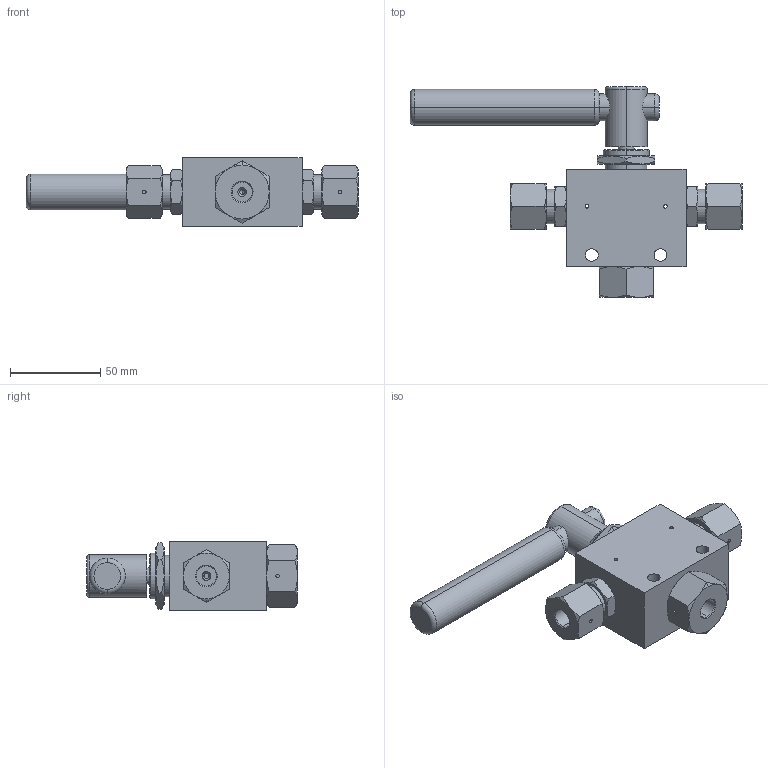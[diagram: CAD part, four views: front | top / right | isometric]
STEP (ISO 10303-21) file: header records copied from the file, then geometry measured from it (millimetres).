
FILE_DESCRIPTION (( 'STEP AP203' ), '1' );
FILE_NAME ('BV2003S04-3-180.STEP', '2022-03-31T10:04:40', ( '' ), ( '' ), 'SwSTEP 2.0', 'SolidWorks 2020', '' );
FILE_SCHEMA (( 'CONFIG_CONTROL_DESIGN' ));
Length unit declared in the file: millimetre
Products named in the file (1): BV2003S04-3-180
Bounding box: 184.33 x 117 x 38 mm (x, y, z)
Volume: 228153.2 mm3; surface area: 40553.6 mm2
Topology: 1 solids, 1 shells, 221 faces, 486 edges, 283 vertices
Faces by surface type: cone 104, plane 61, cylinder 48, torus 8
Entity records: 6831 total; most frequent: CARTESIAN_POINT 2075, DIRECTION 968, ORIENTED_EDGE 960, EDGE_CURVE 480, AXIS2_PLACEMENT_3D 420, VERTEX_POINT 283, EDGE_LOOP 257, FACE_OUTER_BOUND 221
